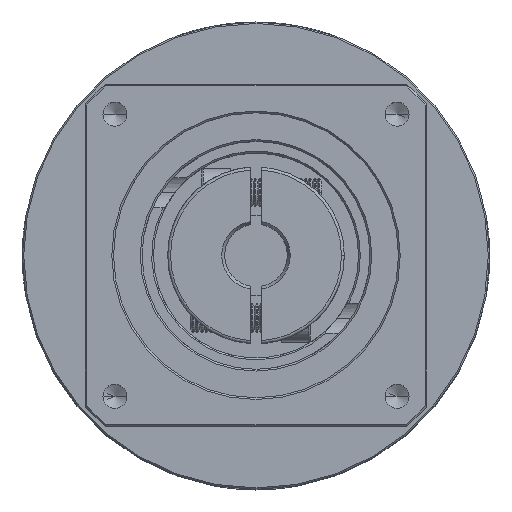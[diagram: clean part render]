
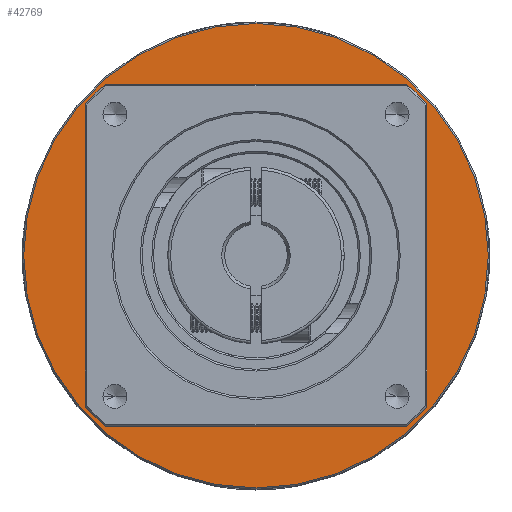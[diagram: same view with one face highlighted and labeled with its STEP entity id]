
A CAD part, top view. The second image highlights one B-rep face of the part: STEP entity #42769.
In plain terms, the highlighted planar face has unit normal (0, 0, 1).
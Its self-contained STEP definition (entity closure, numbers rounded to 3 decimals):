
#5124 = DIRECTION ( 'NONE',  ( -1., 0., 0. ) ) ;
#10254 = DIRECTION ( 'NONE',  ( 0., 0., -1. ) ) ;
#10726 = DIRECTION ( 'NONE',  ( 0., 0., -1. ) ) ;
#17050 = CIRCLE ( 'NONE', #31700, 40.75 ) ;
#18866 = ORIENTED_EDGE ( 'NONE', *, *, #48310, .F. ) ;
#22982 = CARTESIAN_POINT ( 'NONE',  ( -65.061, 18.526, -26.443 ) ) ;
#23648 = ORIENTED_EDGE ( 'NONE', *, *, #26342, .T. ) ;
#24379 = EDGE_LOOP ( 'NONE', ( #64309, #23648 ) ) ;
#26342 = EDGE_CURVE ( 'NONE', #71333, #102911, #69842, .T. ) ;
#30525 = DIRECTION ( 'NONE',  ( 0., 0., -1. ) ) ;
#31357 = DIRECTION ( 'NONE',  ( 1., 0., 0. ) ) ;
#31402 = AXIS2_PLACEMENT_3D ( 'NONE', #61012, #10726, #69471 ) ;
#31700 = AXIS2_PLACEMENT_3D ( 'NONE', #80839, #30525, #89226 ) ;
#33733 = CIRCLE ( 'NONE', #76923, 30. ) ;
#34430 = EDGE_CURVE ( 'NONE', #73939, #46674, #17050, .T. ) ;
#39345 = PLANE ( 'NONE',  #45385 ) ;
#41075 = ORIENTED_EDGE ( 'NONE', *, *, #34430, .F. ) ;
#42769 = ADVANCED_FACE ( 'NONE', ( #95292, #50566 ), #39345, .T. ) ;
#45385 = AXIS2_PLACEMENT_3D ( 'NONE', #22982, #81709, #31357 ) ;
#46674 = VERTEX_POINT ( 'NONE', #55749 ) ;
#48310 = EDGE_CURVE ( 'NONE', #46674, #73939, #91426, .T. ) ;
#50566 = FACE_BOUND ( 'NONE', #24379, .T. ) ;
#51927 = EDGE_LOOP ( 'NONE', ( #18866, #41075 ) ) ;
#52101 = AXIS2_PLACEMENT_3D ( 'NONE', #60518, #10254, #68978 ) ;
#55428 = DIRECTION ( 'NONE',  ( 0., 0., -1. ) ) ;
#55749 = CARTESIAN_POINT ( 'NONE',  ( -65.061, 59.276, -26.443 ) ) ;
#60518 = CARTESIAN_POINT ( 'NONE',  ( -65.061, 18.526, -26.443 ) ) ;
#61012 = CARTESIAN_POINT ( 'NONE',  ( -65.061, 18.526, -26.443 ) ) ;
#64309 = ORIENTED_EDGE ( 'NONE', *, *, #83559, .T. ) ;
#68978 = DIRECTION ( 'NONE',  ( 0., 1., 0. ) ) ;
#69471 = DIRECTION ( 'NONE',  ( -1., 0., 0. ) ) ;
#69842 = CIRCLE ( 'NONE', #31402, 30. ) ;
#71333 = VERTEX_POINT ( 'NONE', #97756 ) ;
#73939 = VERTEX_POINT ( 'NONE', #102193 ) ;
#76923 = AXIS2_PLACEMENT_3D ( 'NONE', #105661, #55428, #5124 ) ;
#80839 = CARTESIAN_POINT ( 'NONE',  ( -65.061, 18.526, -26.443 ) ) ;
#81709 = DIRECTION ( 'NONE',  ( 0., 0., 1. ) ) ;
#83559 = EDGE_CURVE ( 'NONE', #102911, #71333, #33733, .T. ) ;
#84039 = CARTESIAN_POINT ( 'NONE',  ( -95.061, 18.526, -26.443 ) ) ;
#89226 = DIRECTION ( 'NONE',  ( 0., 1., 0. ) ) ;
#91426 = CIRCLE ( 'NONE', #52101, 40.75 ) ;
#95292 = FACE_OUTER_BOUND ( 'NONE', #51927, .T. ) ;
#97756 = CARTESIAN_POINT ( 'NONE',  ( -35.061, 18.526, -26.443 ) ) ;
#102193 = CARTESIAN_POINT ( 'NONE',  ( -65.061, -22.224, -26.443 ) ) ;
#102911 = VERTEX_POINT ( 'NONE', #84039 ) ;
#105661 = CARTESIAN_POINT ( 'NONE',  ( -65.061, 18.526, -26.443 ) ) ;
